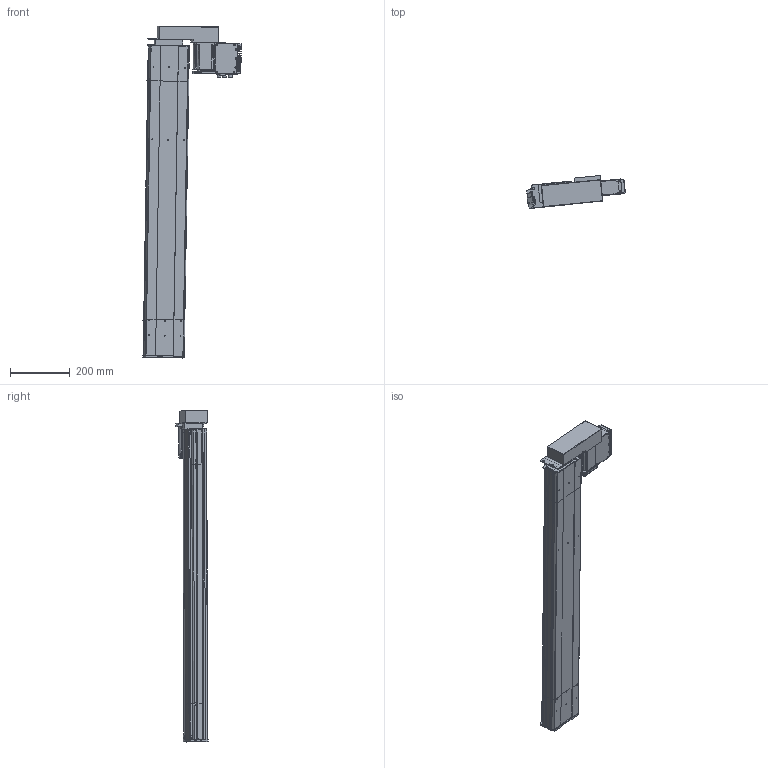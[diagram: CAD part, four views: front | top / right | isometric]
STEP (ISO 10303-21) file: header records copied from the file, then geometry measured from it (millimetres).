
FILE_DESCRIPTION (( 'STEP AP203' ), '1' );
FILE_NAME ('D14 TSH M4 BL L10 S800.STEP', '2012-10-11T07:53:19', ( '' ), ( '' ), 'SwSTEP 2.0', 'SolidWorks 2010', '' );
FILE_SCHEMA (( 'CONFIG_CONTROL_DESIGN' ));
Products named in the file (22): Sub D 9cts_2; T犨e fond_2; Connecteur rond D10 3cts_2; Tôle Arrière_2; Connecteur rond D12 4cts_2; Moteur 70BLDC90A_2; Colonnette_2; Radiateur_2; Pièce802; Pièce800; plaque de bout head D14 BL; corpl tail D14_Default_2; Moteur_2; T犨e contre le moteur_2; Couvercle_2; Tôle latérale_2; Vis TF 3 torkx_2; plaque de  bout tail D14_Default_2; couvercle D14 head_Default_2; D14 TSH M4 BL L10 S800; corp head D14_Default_2; plaque de  bout head D14 MD_Default_2
Assembly tree (49 placements, depth 3):
  D14 TSH M4 BL L10 S800
    plaque de  bout tail D14_Default_2
    corp head D14_Default_2
    plaque de bout head D14 BL
    Moteur_2
      Vis TF 3 torkx_2  x26
      T犨e contre le moteur_2
      Radiateur_2
      Tôle Arrière_2
      Sub D 9cts_2
      Connecteur rond D10 3cts_2  x2
      Tôle latérale_2  x2
      Moteur 70BLDC90A_2
      Couvercle_2
      Connecteur rond D12 4cts_2
      T犨e fond_2
      Colonnette_2
    couvercle D14 head_Default_2  x2
    corpl tail D14_Default_2
    Pièce800
    Pièce802
    plaque de  bout head D14 MD_Default_2
Bounding box: 330.92 x 108.45 x 1113.66 mm (x, y, z)
Volume: 4258385.6 mm3; surface area: 1289547.5 mm2
Topology: 70 solids, 70 shells, 2406 faces, 6282 edges, 4141 vertices
Faces by surface type: plane 1299, cylinder 843, cone 134, bspline 130
Entity records: 64484 total; most frequent: CARTESIAN_POINT 20825, ORIENTED_EDGE 8522, DIRECTION 8148, EDGE_CURVE 4261, VECTOR 2848, LINE 2848, VERTEX_POINT 2815, AXIS2_PLACEMENT_3D 2650
